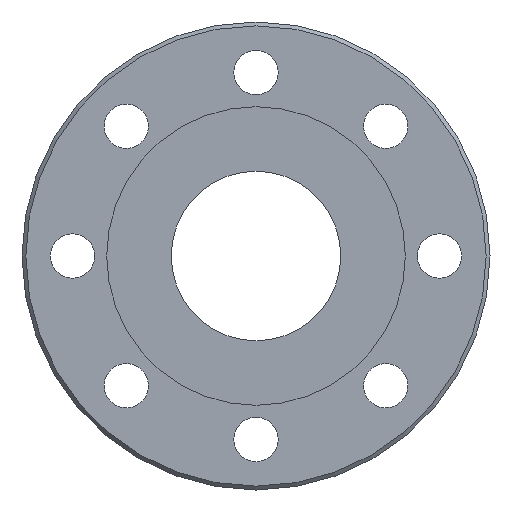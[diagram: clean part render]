
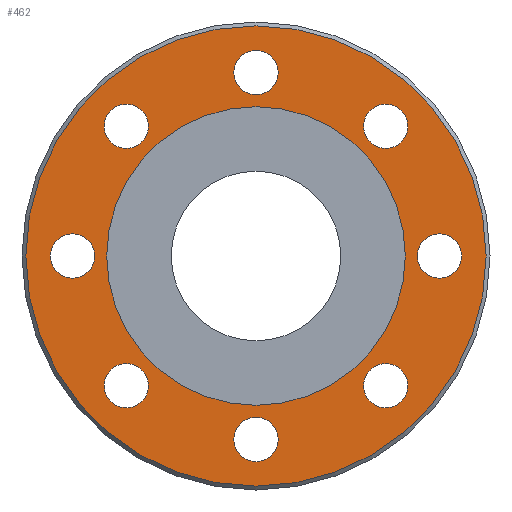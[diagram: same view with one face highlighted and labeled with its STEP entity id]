
A CAD part, left-side view. The second image highlights one B-rep face of the part: STEP entity #462.
In plain terms, the highlighted planar face has unit normal (-1, 0, 0).
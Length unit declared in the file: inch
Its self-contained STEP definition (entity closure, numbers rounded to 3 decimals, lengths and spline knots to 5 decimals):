
#15=FACE_BOUND('',#83,.T.);
#16=FACE_BOUND('',#84,.T.);
#17=FACE_BOUND('',#85,.T.);
#18=FACE_BOUND('',#86,.T.);
#19=FACE_BOUND('',#87,.T.);
#20=FACE_BOUND('',#88,.T.);
#21=FACE_BOUND('',#89,.T.);
#22=FACE_BOUND('',#90,.T.);
#23=FACE_BOUND('',#91,.T.);
#37=PLANE('',#510);
#59=FACE_OUTER_BOUND('',#82,.T.);
#82=EDGE_LOOP('',(#321));
#83=EDGE_LOOP('',(#322,#323));
#84=EDGE_LOOP('',(#324));
#85=EDGE_LOOP('',(#325));
#86=EDGE_LOOP('',(#326));
#87=EDGE_LOOP('',(#327));
#88=EDGE_LOOP('',(#328));
#89=EDGE_LOOP('',(#329));
#90=EDGE_LOOP('',(#330));
#91=EDGE_LOOP('',(#331));
#157=CIRCLE('',#504,3.5815);
#162=CIRCLE('',#511,2.323);
#163=CIRCLE('',#512,2.323);
#164=CIRCLE('',#513,0.345);
#165=CIRCLE('',#514,0.345);
#166=CIRCLE('',#515,0.345);
#167=CIRCLE('',#516,0.345);
#168=CIRCLE('',#517,0.345);
#169=CIRCLE('',#518,0.345);
#170=CIRCLE('',#519,0.345);
#171=CIRCLE('',#520,0.345);
#203=VERTEX_POINT('',#730);
#208=VERTEX_POINT('',#744);
#209=VERTEX_POINT('',#745);
#210=VERTEX_POINT('',#748);
#211=VERTEX_POINT('',#750);
#212=VERTEX_POINT('',#752);
#213=VERTEX_POINT('',#754);
#214=VERTEX_POINT('',#756);
#215=VERTEX_POINT('',#758);
#216=VERTEX_POINT('',#760);
#217=VERTEX_POINT('',#762);
#248=EDGE_CURVE('',#203,#203,#157,.T.);
#255=EDGE_CURVE('',#208,#209,#162,.T.);
#256=EDGE_CURVE('',#209,#208,#163,.T.);
#257=EDGE_CURVE('',#210,#210,#164,.T.);
#258=EDGE_CURVE('',#211,#211,#165,.T.);
#259=EDGE_CURVE('',#212,#212,#166,.T.);
#260=EDGE_CURVE('',#213,#213,#167,.T.);
#261=EDGE_CURVE('',#214,#214,#168,.T.);
#262=EDGE_CURVE('',#215,#215,#169,.T.);
#263=EDGE_CURVE('',#216,#216,#170,.T.);
#264=EDGE_CURVE('',#217,#217,#171,.T.);
#321=ORIENTED_EDGE('',*,*,#248,.F.);
#322=ORIENTED_EDGE('',*,*,#255,.F.);
#323=ORIENTED_EDGE('',*,*,#256,.F.);
#324=ORIENTED_EDGE('',*,*,#257,.T.);
#325=ORIENTED_EDGE('',*,*,#258,.T.);
#326=ORIENTED_EDGE('',*,*,#259,.T.);
#327=ORIENTED_EDGE('',*,*,#260,.T.);
#328=ORIENTED_EDGE('',*,*,#261,.T.);
#329=ORIENTED_EDGE('',*,*,#262,.T.);
#330=ORIENTED_EDGE('',*,*,#263,.T.);
#331=ORIENTED_EDGE('',*,*,#264,.T.);
#462=ADVANCED_FACE('',(#59,#15,#16,#17,#18,#19,#20,#21,#22,#23),#37,.T.);
#504=AXIS2_PLACEMENT_3D('',#731,#576,#577);
#510=AXIS2_PLACEMENT_3D('',#743,#590,#591);
#511=AXIS2_PLACEMENT_3D('',#746,#592,#593);
#512=AXIS2_PLACEMENT_3D('',#747,#594,#595);
#513=AXIS2_PLACEMENT_3D('',#749,#596,#597);
#514=AXIS2_PLACEMENT_3D('',#751,#598,#599);
#515=AXIS2_PLACEMENT_3D('',#753,#600,#601);
#516=AXIS2_PLACEMENT_3D('',#755,#602,#603);
#517=AXIS2_PLACEMENT_3D('',#757,#604,#605);
#518=AXIS2_PLACEMENT_3D('',#759,#606,#607);
#519=AXIS2_PLACEMENT_3D('',#761,#608,#609);
#520=AXIS2_PLACEMENT_3D('',#763,#610,#611);
#576=DIRECTION('center_axis',(1.,0.,0.));
#577=DIRECTION('ref_axis',(0.,-1.,0.));
#590=DIRECTION('center_axis',(-1.,0.,0.));
#591=DIRECTION('ref_axis',(0.,0.,1.));
#592=DIRECTION('center_axis',(-1.,0.,0.));
#593=DIRECTION('ref_axis',(0.,0.,1.));
#594=DIRECTION('center_axis',(-1.,0.,0.));
#595=DIRECTION('ref_axis',(0.,0.,1.));
#596=DIRECTION('center_axis',(1.,0.,0.));
#597=DIRECTION('ref_axis',(0.,0.,-1.));
#598=DIRECTION('center_axis',(1.,0.,0.));
#599=DIRECTION('ref_axis',(0.,-0.707,-0.707));
#600=DIRECTION('center_axis',(1.,0.,0.));
#601=DIRECTION('ref_axis',(0.,-1.,0.));
#602=DIRECTION('center_axis',(1.,0.,0.));
#603=DIRECTION('ref_axis',(0.,-0.707,0.707));
#604=DIRECTION('center_axis',(1.,0.,0.));
#605=DIRECTION('ref_axis',(0.,0.,
1.));
#606=DIRECTION('center_axis',(1.,0.,0.));
#607=DIRECTION('ref_axis',(0.,0.707,0.707));
#608=DIRECTION('center_axis',(1.,0.,0.));
#609=DIRECTION('ref_axis',(0.,1.,0.));
#610=DIRECTION('center_axis',(1.,0.,0.));
#611=DIRECTION('ref_axis',(0.,0.707,-0.707));
#730=CARTESIAN_POINT('',(-2.402,3.5815,0.));
#731=CARTESIAN_POINT('Origin',(-2.402,0.,0.));
#743=CARTESIAN_POINT('Origin',(-2.402,2.323,0.));
#744=CARTESIAN_POINT('',(-2.402,2.323,0.));
#745=CARTESIAN_POINT('',(-2.402,-2.323,0.));
#746=CARTESIAN_POINT('Origin',(-2.402,0.,0.));
#747=CARTESIAN_POINT('Origin',(-2.402,0.,0.));
#748=CARTESIAN_POINT('',(-2.402,0.,3.2));
#749=CARTESIAN_POINT('Origin',(-2.402,0.,2.855));
#750=CARTESIAN_POINT('',(-2.402,2.26274,2.26274));
#751=CARTESIAN_POINT('Origin',(-2.402,2.01879,2.01879));
#752=CARTESIAN_POINT('',(-2.402,3.2,0.));
#753=CARTESIAN_POINT('Origin',(-2.402,2.855,0.));
#754=CARTESIAN_POINT('',(-2.402,2.26274,-2.26274));
#755=CARTESIAN_POINT('Origin',(-2.402,2.01879,-2.01879));
#756=CARTESIAN_POINT('',(-2.402,0.,-3.2));
#757=CARTESIAN_POINT('Origin',(-2.402,0.,-2.855));
#758=CARTESIAN_POINT('',(-2.402,-2.26274,-2.26274));
#759=CARTESIAN_POINT('Origin',(-2.402,-2.01879,-2.01879));
#760=CARTESIAN_POINT('',(-2.402,-3.2,0.));
#761=CARTESIAN_POINT('Origin',(-2.402,-2.855,0.));
#762=CARTESIAN_POINT('',(-2.402,-2.26274,2.26274));
#763=CARTESIAN_POINT('Origin',(-2.402,-2.01879,2.01879));
